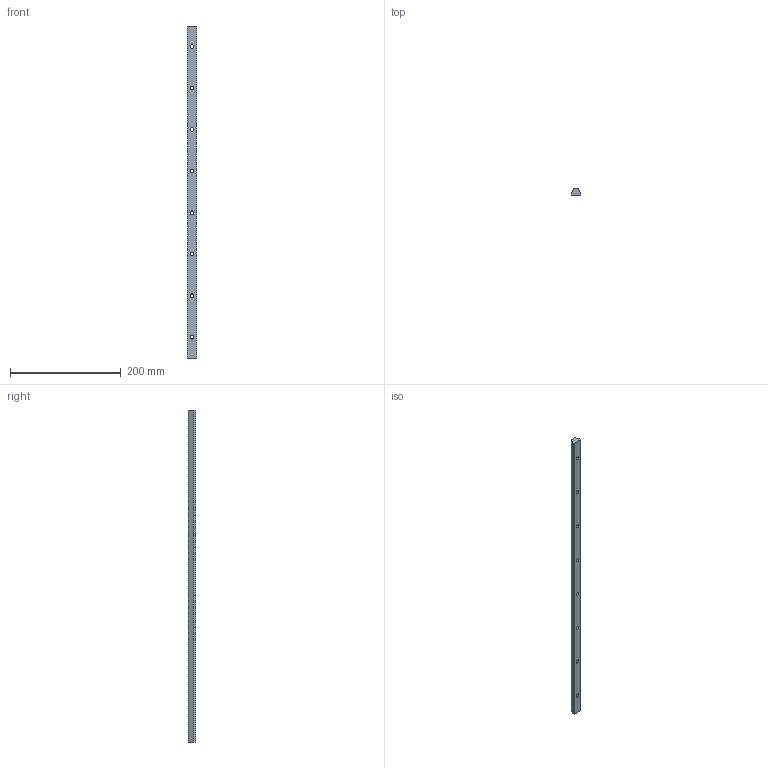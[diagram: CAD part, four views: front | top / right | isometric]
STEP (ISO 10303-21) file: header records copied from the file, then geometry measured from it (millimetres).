
FILE_DESCRIPTION (( 'STEP AP203' ), '1' );
FILE_NAME ('KWU16-20.step', '2020-03-23T07:54:01', ( '' ), ( '' ), 'SwSTEP 2.0', 'SolidWorks 2019', '' );
FILE_SCHEMA (( 'CONFIG_CONTROL_DESIGN' ));
Length unit declared in the file: millimetre
Products named in the file (2): KWU16-20
Bounding box: 17 x 12.82 x 599.5 mm (x, y, z)
Volume: 99832.5 mm3; surface area: 33743.3 mm2
Topology: 1 solids, 1 shells, 25 faces, 77 edges, 46 vertices
Faces by surface type: cylinder 16, plane 9
Entity records: 1026 total; most frequent: CARTESIAN_POINT 198, ORIENTED_EDGE 154, DIRECTION 131, EDGE_CURVE 77, VERTEX_POINT 46, VECTOR 45, LINE 45, AXIS2_PLACEMENT_3D 43
